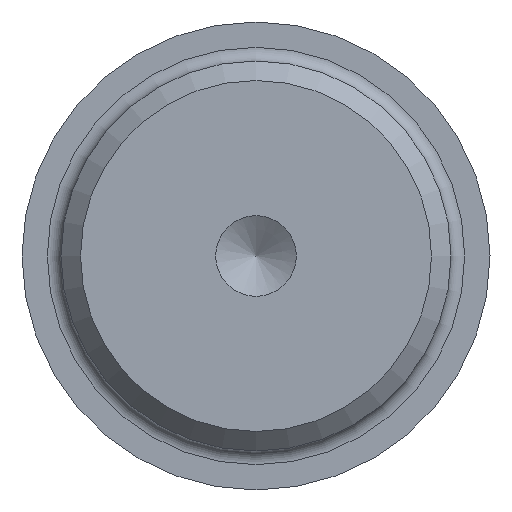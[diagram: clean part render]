
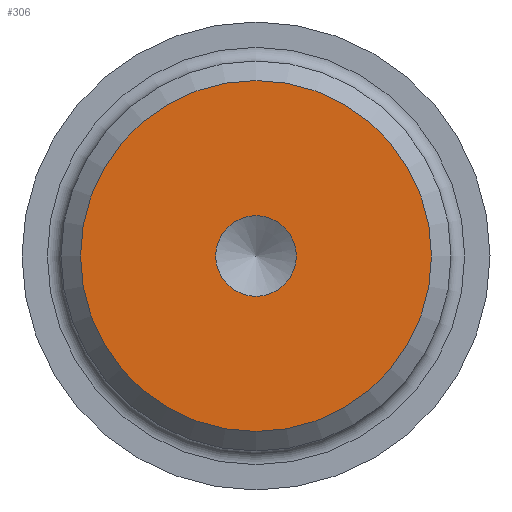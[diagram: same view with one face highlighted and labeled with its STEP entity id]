
A CAD part, left-side view. The second image highlights one B-rep face of the part: STEP entity #306.
In plain terms, the highlighted planar face has unit normal (-1, 0, 0).
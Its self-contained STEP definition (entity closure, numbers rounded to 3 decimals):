
#44=PLANE('',#350);
#67=FACE_BOUND('',#129,.T.);
#92=FACE_OUTER_BOUND('',#128,.T.);
#128=EDGE_LOOP('',(#267));
#129=EDGE_LOOP('',(#268));
#155=CIRCLE('',#347,2.067);
#156=CIRCLE('',#349,9.);
#183=VERTEX_POINT('',#562);
#184=VERTEX_POINT('',#565);
#215=EDGE_CURVE('',#183,#183,#155,.T.);
#216=EDGE_CURVE('',#184,#184,#156,.T.);
#267=ORIENTED_EDGE('',*,*,#216,.F.);
#268=ORIENTED_EDGE('',*,*,#215,.F.);
#306=ADVANCED_FACE('',(#92,#67),#44,.F.);
#347=AXIS2_PLACEMENT_3D('',#563,#435,#436);
#349=AXIS2_PLACEMENT_3D('',#566,#439,#440);
#350=AXIS2_PLACEMENT_3D('',#567,#441,#442);
#435=DIRECTION('center_axis',(-1.,0.,0.));
#436=DIRECTION('ref_axis',(0.,0.,1.));
#439=DIRECTION('center_axis',(1.,0.,0.));
#440=DIRECTION('ref_axis',(0.,0.,1.));
#441=DIRECTION('center_axis',(1.,0.,0.));
#442=DIRECTION('ref_axis',(0.,0.,-1.));
#562=CARTESIAN_POINT('',(2.,0.,2.067));
#563=CARTESIAN_POINT('Origin',(2.,0.,0.));
#565=CARTESIAN_POINT('',(2.,0.,-9.));
#566=CARTESIAN_POINT('Origin',(2.,0.,0.));
#567=CARTESIAN_POINT('Origin',(2.,0.,0.));
